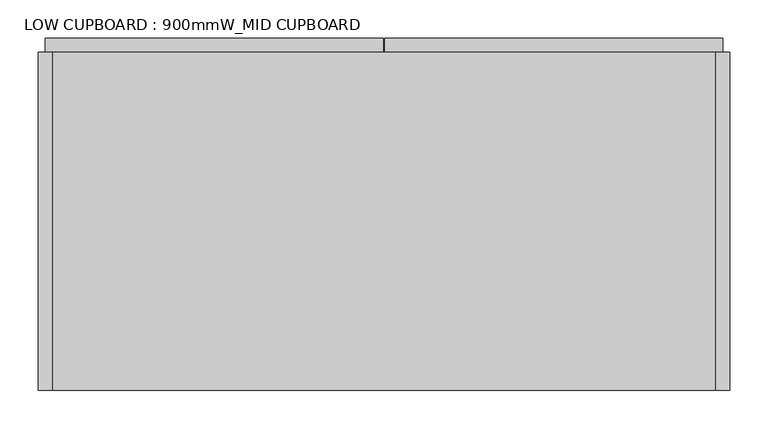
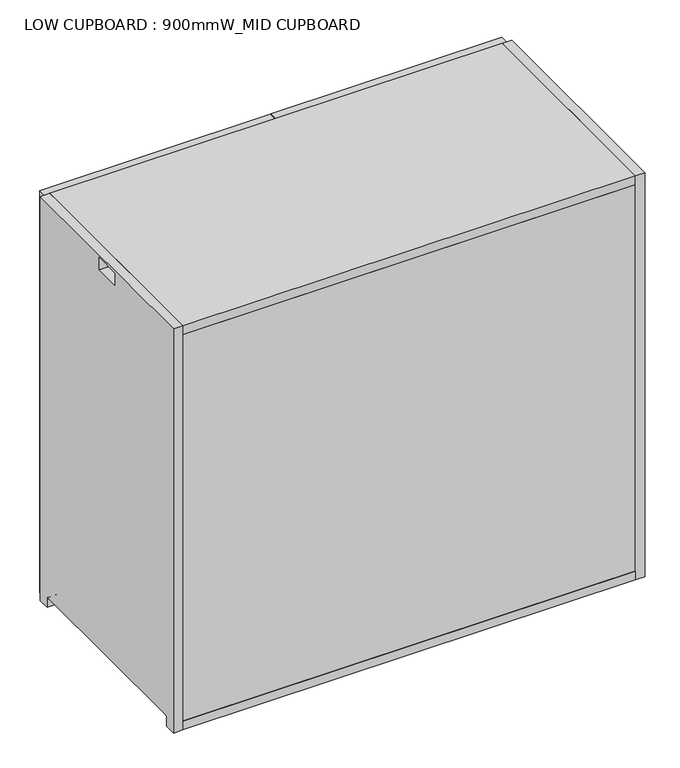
"""IFC4 building model written with IfcOpenShell, lengths in millimetres: furniture geometry, LOW CUPBOARD : 900mmW_MID CUPBOARD."""

from ifc_helpers import new_model, si_unit, point, frame, frame_2d, origin, place, context, project, spatial, polyline, circle_curve, trimmed, segment, composite_curve, outline, extrude, source, transform, mapped, element, save
from ifc_brep_helpers import plane_surface, revolved_surface, advanced_brep


def low_cupboard_900mmw_mid_cupboard_1371cb91(model_context):
    return source(origin(), model_context, "Body", "SolidModel", [
        extrude(outline(composite_curve([segment(polyline([(220.0, 815.0), (220.0, 0.0), (198.0, 0.0), (198.0, 17.0)]), True, "CONTINUOUS"), segment(trimmed(circle_curve(frame_2d((194.0, 17.0)), 4.0), [point((198.0, 17.0))], [point((194.0, 21.0))], True, "CARTESIAN"), True, "CONTINUOUS"), segment(polyline([(194.0, 21.0), (-194.0, 21.0)]), True, "CONTINUOUS"), segment(trimmed(circle_curve(frame_2d((-194.0, 17.0)), 4.0), [point((-194.0, 21.0))], [point((-198.0, 17.0))], True, "CARTESIAN"), True, "CONTINUOUS"), segment(polyline([(-198.0, 17.0), (-198.0, 0.0), (-220.0, 0.0), (-220.0, 815.0), (220.0, 815.0)]), True, "CONTINUOUS")], self_intersect=False), holes=[polyline([(26.0, 810.0), (-26.0, 810.0), (-26.0, 785.0), (26.0, 785.0), (26.0, 810.0)])]), frame((-450.0, 0.0, 0.0), z_axis=(1.0, 0.0, 0.0), x_axis=(0.0, 1.0, 0.0)), (0.0, 0.0, 1.0), 18.0),
        advanced_brep(
        [(432.0, -220.0, 18.0), (432.0, 220.0, 18.0), (-432.0, 220.0, 18.0), (-432.0, 197.8729833, 18.0), (-426.1019215, 197.8729833, 18.0), (-426.1019215, -197.8729833, 18.0), (-432.0, -197.8729833, 18.0), (-432.0, -220.0, 18.0), (432.0, -220.0, 0.0), (-432.0, -220.0, 0.0), (-432.0, -198.0, 0.0), (-426.1019215, -198.0, 0.0), (-426.1019215, 198.0, 0.0), (-432.0, 198.0, 0.0), (-432.0, 220.0, 0.0), (432.0, 220.0, 0.0), (-432.0, -198.0, 17.0), (-432.0, 198.0, 17.0), (-426.1019215, -198.0, 17.0), (-426.1019215, 198.0, 17.0)],
        [
            (0, 1),
            (1, 2),
            (2, 3),
            (3, 4),
            (4, 5),
            (5, 6),
            (6, 7),
            (7, 0),
            (8, 9),
            (9, 10),
            (10, 11),
            (11, 12),
            (12, 13),
            (13, 14),
            (14, 15),
            (15, 8),
            (7, 9),
            (8, 0),
            (6, 16, circle_curve(frame((-432.0, -194.0, 17.0), z_axis=(1.0, 0.0, 0.0), x_axis=(0.0, -1.0, 0.0)), 4.0)),
            (16, 10),
            (13, 17),
            (17, 3, circle_curve(frame((-432.0, 194.0, 17.0), z_axis=(1.0, 0.0, 0.0), x_axis=(0.0, -1.0, 0.0)), 4.0)),
            (2, 14),
            (1, 15),
            (18, 5, circle_curve(frame((-426.1019215, -194.0, 17.0), z_axis=(-1.0, 0.0, 0.0), x_axis=(0.0, -1.0, 0.0)), 4.0)),
            (4, 19, circle_curve(frame((-426.1019215, 194.0, 17.0), z_axis=(-1.0, 0.0, 0.0), x_axis=(0.0, -1.0, 0.0)), 4.0)),
            (19, 12),
            (11, 18),
            (17, 19),
            (16, 18),
        ],
        [
            plane_surface(frame((-432.0, -220.0, 18.0), z_axis=(0.0, 0.0, 1.0), x_axis=(-1.0, 0.0, 0.0))),
            plane_surface(frame((-432.0, -220.0, 0.0), z_axis=(0.0, 0.0, -1.0), x_axis=(1.0, 0.0, 0.0))),
            plane_surface(frame((432.0, -220.0, 18.0), z_axis=(0.0, -1.0, 0.0), x_axis=(0.0, 0.0, -1.0))),
            plane_surface(frame((-432.0, -220.0, 18.0), z_axis=(-1.0, 0.0, 0.0), x_axis=(0.0, 0.0, -1.0))),
            plane_surface(frame((-432.0, 220.0, 18.0), z_axis=(0.0, 1.0, 0.0), x_axis=(0.0, 0.0, -1.0))),
            plane_surface(frame((432.0, 220.0, 18.0), z_axis=(1.0, 0.0, 0.0), x_axis=(0.0, 0.0, -1.0))),
            plane_surface(frame((-426.1019215, 190.0, 17.0), z_axis=(-1.0, 0.0, 0.0), x_axis=(0.0, 0.0, 1.0))),
            revolved_surface(polyline([(-426.1019215, 190.0, 17.0), (-432.0, 190.0, 17.0)]), (-456.0458228, 194.0, 17.0), (1.0, 0.0, 0.0)),
            plane_surface(frame((-426.1019215, 198.0, 17.0), z_axis=(0.0, -1.0, 0.0), x_axis=(-1.0, 0.0, 0.0))),
            plane_surface(frame((-426.1019215, -198.0, 0.0), z_axis=(0.0, 1.0, 0.0), x_axis=(-1.0, 0.0, 0.0))),
            revolved_surface(polyline([(-426.1019215, -198.0, 17.0), (-432.0, -198.0, 17.0)]), (-456.0458228, -194.0, 17.0), (1.0, 0.0, 0.0)),
        ],
        [
            (0, [[1, 2, 3, 4, 5, 6, 7, 8]]),
            (1, [[9, 10, 11, 12, 13, 14, 15, 16]]),
            (2, [[17, -9, 18, -8]]),
            (3, [[-7, 19, 20, -10, -17]]),
            (3, [[-14, 21, 22, -3, 23]]),
            (4, [[24, -15, -23, -2]]),
            (5, [[-18, -16, -24, -1]]),
            (6, [[25, -5, 26, 27, -12, 28]]),
            (7, [[-4, -22, 29, -26]]),
            (8, [[-29, -21, -13, -27]]),
            (9, [[-11, -20, 30, -28]]),
            (10, [[-30, -19, -6, -25]]),
        ],
    ),
        extrude(outline(composite_curve([segment(polyline([(220.0, 815.0), (220.0, 0.0), (198.0, 0.0), (198.0, 17.0)]), True, "CONTINUOUS"), segment(trimmed(circle_curve(frame_2d((194.0, 17.0)), 4.0), [point((198.0, 17.0))], [point((194.0, 21.0))], True, "CARTESIAN"), True, "CONTINUOUS"), segment(polyline([(194.0, 21.0), (-194.0, 21.0)]), True, "CONTINUOUS"), segment(trimmed(circle_curve(frame_2d((-194.0, 17.0)), 4.0), [point((-194.0, 21.0))], [point((-198.0, 17.0))], True, "CARTESIAN"), True, "CONTINUOUS"), segment(polyline([(-198.0, 17.0), (-198.0, 0.0), (-220.0, 0.0), (-220.0, 815.0), (220.0, 815.0)]), True, "CONTINUOUS")], self_intersect=False), holes=[polyline([(26.0, 810.0), (-26.0, 810.0), (-26.0, 785.0), (26.0, 785.0), (26.0, 810.0)])]), frame((432.0, 0.0, 0.0), z_axis=(1.0, 0.0, 0.0), x_axis=(0.0, 1.0, 0.0)), (0.0, 0.0, 1.0), 18.0),
        extrude(outline(polyline([(432.0, -220.0), (-432.0, -220.0), (-432.0, -202.0), (432.0, -202.0), (432.0, -220.0)])), frame((0.0, 0.0, 18.0), z_axis=(0.0, 0.0, 1.0), x_axis=(1.0, 0.0, 0.0)), (0.0, 0.0, 1.0), 779.0),
        extrude(outline(polyline([(432.0, -202.0), (-432.0, -202.0), (-432.0, 220.0), (432.0, 220.0), (432.0, -202.0)])), frame((0.0, 0.0, 398.5), z_axis=(0.0, 0.0, 1.0), x_axis=(1.0, 0.0, 0.0)), (0.0, 0.0, 1.0), 18.0),
        extrude(outline(polyline([(432.0, -220.0), (-432.0, -220.0), (-432.0, 220.0), (432.0, 220.0), (432.0, -220.0)])), frame((0.0, 0.0, 797.0), z_axis=(0.0, 0.0, 1.0), x_axis=(1.0, 0.0, 0.0)), (0.0, 0.0, 1.0), 18.0),
        extrude(outline(polyline([(9.0, -202.0), (-9.0, -202.0), (-9.0, 220.0), (9.0, 220.0), (9.0, -202.0)])), frame((0.0, 0.0, 18.0), z_axis=(0.0, 0.0, 1.0), x_axis=(1.0, 0.0, 0.0)), (0.0, 0.0, 1.0), 779.0),
        extrude(outline(polyline([(441.0, 220.0), (1.0, 220.0), (1.0, 238.0), (441.0, 238.0), (441.0, 220.0)])), frame((0.0, 0.0, 2.0), z_axis=(0.0, 0.0, 1.0), x_axis=(1.0, 0.0, 0.0)), (0.0, 0.0, 1.0), 811.0),
        extrude(outline(polyline([(-441.0, 220.0), (-441.0, 238.0), (-1.0, 238.0), (-1.0, 220.0), (-441.0, 220.0)])), frame((0.0, 0.0, 2.0), z_axis=(0.0, 0.0, 1.0), x_axis=(1.0, 0.0, 0.0)), (0.0, 0.0, 1.0), 811.0),
    ])


if __name__ == "__main__":
    model = new_model("IFC4")
    model_context = context("Model", 3, world=origin())
    ifc_project = project(units=[si_unit("LENGTHUNIT", "METRE", prefix="MILLI")], contexts=[model_context])
    site = spatial("IfcSite", under=ifc_project)
    building = spatial("IfcBuilding", under=site)
    placement = place(None, origin())
    low_cupboard_900mmw_mid_cupboard_shape = low_cupboard_900mmw_mid_cupboard_1371cb91(model_context)
    element("IfcFurniture", 1, ObjectType="LOW CUPBOARD : 900mmW_MID CUPBOARD", at=placement, inside=building, context=model_context, shape_type="MappedRepresentation", body=[
        mapped(low_cupboard_900mmw_mid_cupboard_shape, transform((0.0, 0.0, 0.0), x_axis=(1.0, 0.0, 0.0), y_axis=(0.0, 1.0, 0.0), z_axis=(0.0, 0.0, 1.0))),
    ])
    save(model, "model.ifc")
